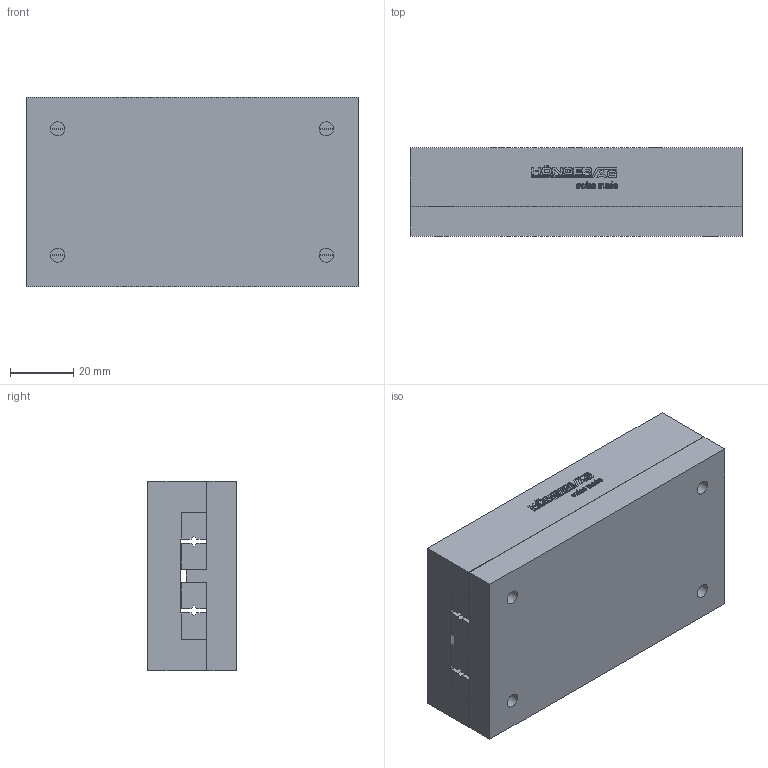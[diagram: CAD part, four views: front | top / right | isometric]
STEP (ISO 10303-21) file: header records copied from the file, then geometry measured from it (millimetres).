
FILE_DESCRIPTION(/* description */ ('STEP AP214'),/* implementation_level */ '2;1');
FILE_NAME(/* name */ 'NK 3-105-B(0)',/* time_stamp */ '2025-04-22T17:49:08+02:00',/* author */ ('License CC BY-ND 4.0'),/* organization */ ('CADENAS'),/* preprocessor_version */ 'ST-DEVELOPER v19.3',/* originating_system */ 'PARTsolutions',/* authorisation */ ' ');
FILE_SCHEMA (('AUTOMOTIVE_DESIGN {1 0 10303 214 3 1 1}'));
Length unit declared in the file: millimetre
Products named in the file (3): NK 3-105-B(0); NK 3-105-B_1; NK 3-105-B_2
Assembly tree (2 placements, depth 2):
  NK 3-105-B(0)
    NK 3-105-B_1
    NK 3-105-B_2
Bounding box: 105 x 28 x 60 mm (x, y, z)
Volume: 170586.4 mm3; surface area: 45797.5 mm2
Topology: 2 solids, 2 shells, 587 faces, 1660 edges, 1102 vertices
Faces by surface type: cylinder 306, plane 269, cone 12
Full cylindrical faces by diameter (mm): 3.242 x6, 4.5 x4, 7.5 x4
Entity records: 19197 total; most frequent: DIRECTION 3444, CARTESIAN_POINT 3356, ORIENTED_EDGE 3268, EDGE_CURVE 1634, AXIS2_PLACEMENT_3D 1232, VERTEX_POINT 1096, LINE 980, VECTOR 980
